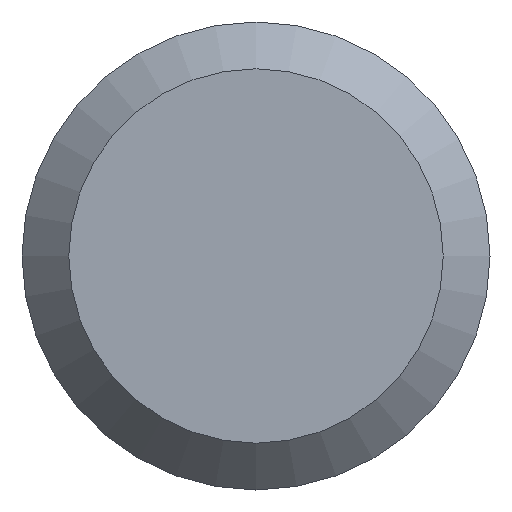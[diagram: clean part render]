
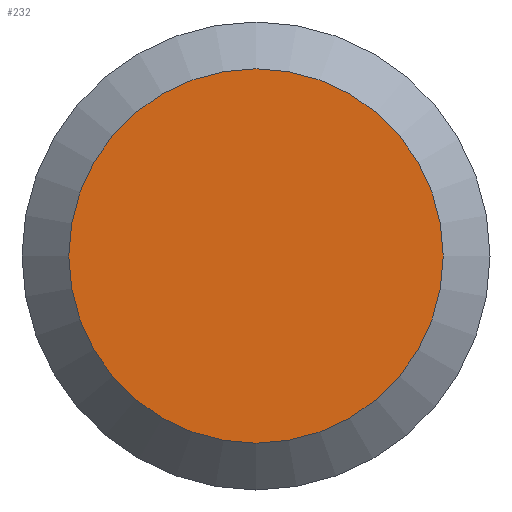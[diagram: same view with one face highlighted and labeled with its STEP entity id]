
A CAD part, left-side view. The second image highlights one B-rep face of the part: STEP entity #232.
In plain terms, the highlighted planar face has unit normal (-1, 0, 0).
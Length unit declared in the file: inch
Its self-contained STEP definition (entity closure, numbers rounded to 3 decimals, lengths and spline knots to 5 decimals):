
#50 = DIRECTION ( 'NONE',  ( 0., 0., -1. ) ) ;
#67 = CIRCLE ( 'NONE', #220, 0.0304 ) ;
#74 = ORIENTED_EDGE ( 'NONE', *, *, #119, .T. ) ;
#99 = DIRECTION ( 'NONE',  ( 0., 0., -1. ) ) ;
#106 = EDGE_LOOP ( 'NONE', ( #74 ) ) ;
#117 = PLANE ( 'NONE',  #228 ) ;
#119 = EDGE_CURVE ( 'NONE', #177, #177, #67, .T. ) ;
#138 = CARTESIAN_POINT ( 'NONE',  ( 0., 0., 0. ) ) ;
#152 = DIRECTION ( 'NONE',  ( -1., 0., 0. ) ) ;
#162 = CARTESIAN_POINT ( 'NONE',  ( 0., 0., -0.0304 ) ) ;
#174 = CARTESIAN_POINT ( 'NONE',  ( 0., 0.038, 0. ) ) ;
#177 = VERTEX_POINT ( 'NONE', #162 ) ;
#186 = FACE_OUTER_BOUND ( 'NONE', #106, .T. ) ;
#212 = DIRECTION ( 'NONE',  ( 1., 0., 0. ) ) ;
#220 = AXIS2_PLACEMENT_3D ( 'NONE', #138, #152, #99 ) ;
#228 = AXIS2_PLACEMENT_3D ( 'NONE', #174, #212, #50 ) ;
#232 = ADVANCED_FACE ( 'NONE', ( #186 ), #117, .F. ) ;
